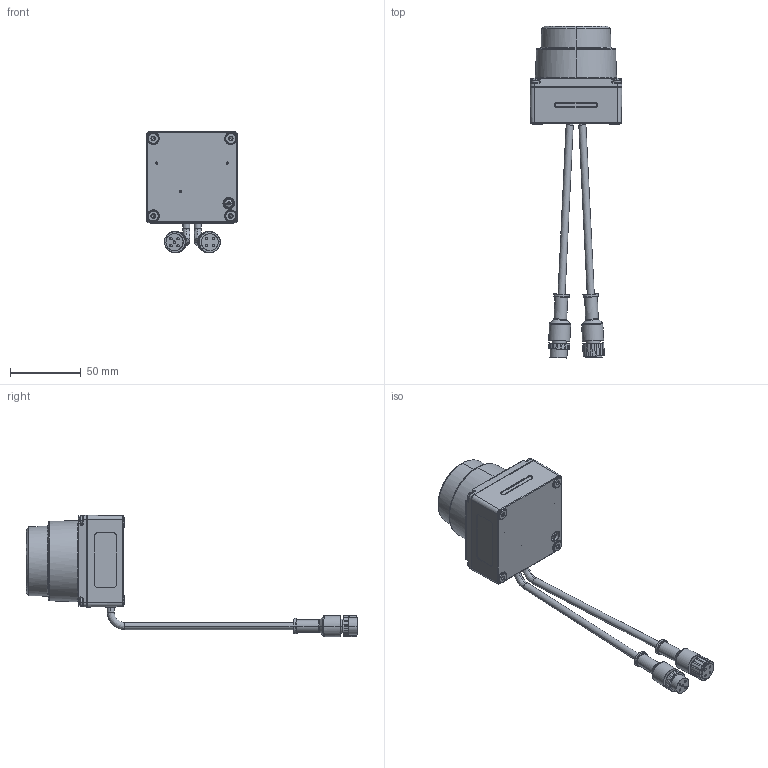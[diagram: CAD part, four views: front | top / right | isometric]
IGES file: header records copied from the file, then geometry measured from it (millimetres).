
Global section: file name: C:\Users\sgrannonio\OneDrive - Datalogic S.p.a\Desktop\trash\Olei iges.igs; native system: NX V1926; preprocessor: SIEMENS PLM Software NX 1946; date: 20240206.085747; units: millimetre
Bounding box: 64.99 x 234.99 x 85.99 mm (x, y, z)
Surface area: 63178.8 mm2 (no closed solid volume)
Topology: 0 solids, 0 shells, 2598 faces, 14986 edges, 14934 vertices
Faces by surface type: bspline 2598
